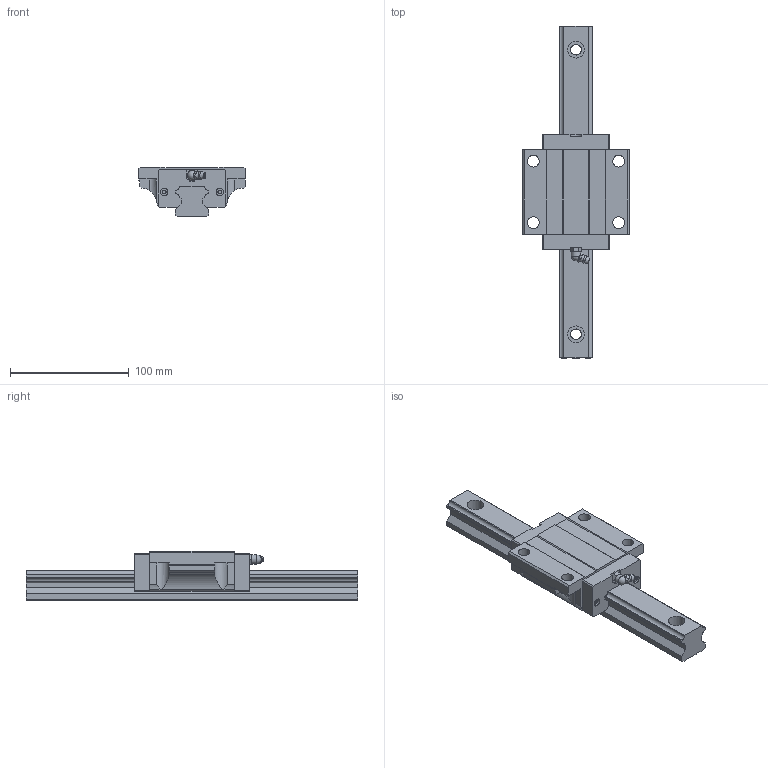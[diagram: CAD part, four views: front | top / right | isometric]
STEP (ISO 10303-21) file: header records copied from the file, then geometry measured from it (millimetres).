
FILE_DESCRIPTION(/* description */ (''),/* implementation_level */ '2;1');
FILE_NAME(/* name */ 'MSA30E',/* time_stamp */ '2003-12-29T13:25:40+08:00',/* author */ (''),/* organization */ (''),/* preprocessor_version */ 'ST-DEVELOPER v9',/* originating_system */ '',/* authorisation */ '');
FILE_SCHEMA (('CONFIG_CONTROL_DESIGN'));
Length unit declared in the file: millimetre
Products named in the file (1): zirc5932mwif
Bounding box: 90 x 280 x 42 mm (x, y, z)
Volume: 340169 mm3; surface area: 67523.7 mm2
Topology: 3 solids, 3 shells, 206 faces, 563 edges, 372 vertices
Faces by surface type: plane 150, cylinder 45, torus 7, sphere 2, cone 1, bspline 1
Full cylindrical faces by diameter (mm): 3.25 x4, 6.5 x5, 8 x1, 9 x4, 10 x4, 14 x4
Entity records: 6552 total; most frequent: CARTESIAN_POINT 1302, ORIENTED_EDGE 1056, DIRECTION 1045, EDGE_CURVE 528, LINE 371, VECTOR 371, VERTEX_POINT 364, AXIS2_PLACEMENT_3D 337
